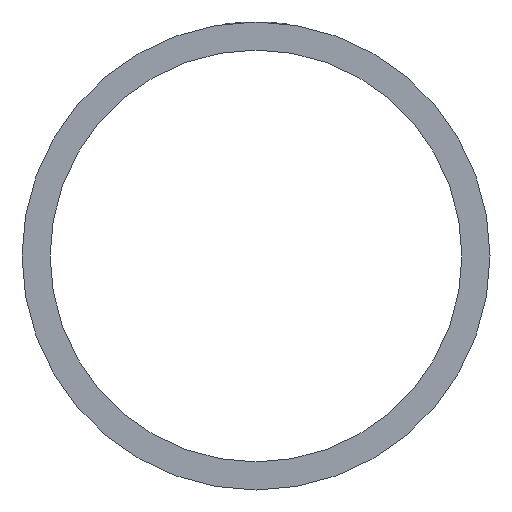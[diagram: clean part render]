
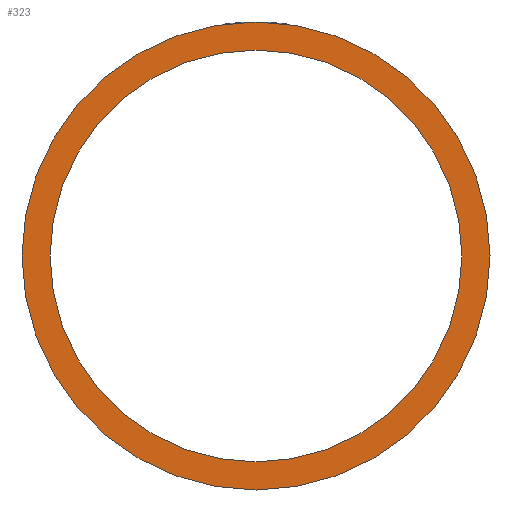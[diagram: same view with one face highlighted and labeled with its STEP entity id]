
A CAD part, front view. The second image highlights one B-rep face of the part: STEP entity #323.
In plain terms, the highlighted planar face has unit normal (0, -1, 0).
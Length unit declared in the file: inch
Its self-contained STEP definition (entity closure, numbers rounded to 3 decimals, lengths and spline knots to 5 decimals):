
#18 = FACE_OUTER_BOUND ( 'NONE', #477, .T. ) ;
#19 = CIRCLE ( 'NONE', #456, 1. ) ;
#20 = CIRCLE ( 'NONE', #437, 0.88 ) ;
#23 = FACE_BOUND ( 'NONE', #475, .T. ) ;
#27 = VERTEX_POINT ( 'NONE', #121 ) ;
#30 = VERTEX_POINT ( 'NONE', #119 ) ;
#37 = DIRECTION ( 'NONE',  ( 0., 1., 0. ) ) ;
#61 = CARTESIAN_POINT ( 'NONE',  ( 0., 0., 0. ) ) ;
#78 = DIRECTION ( 'NONE',  ( 1., 0., 0. ) ) ;
#119 = CARTESIAN_POINT ( 'NONE',  ( 0., 0., -1. ) ) ;
#121 = CARTESIAN_POINT ( 'NONE',  ( 0., 0., 0.88 ) ) ;
#131 = CARTESIAN_POINT ( 'NONE',  ( 0., 0., 0. ) ) ;
#139 = CARTESIAN_POINT ( 'NONE',  ( 0., 0., -0.88 ) ) ;
#142 = CARTESIAN_POINT ( 'NONE',  ( 0., 0., 1. ) ) ;
#150 = DIRECTION ( 'NONE',  ( 0., 0., 1. ) ) ;
#169 = PLANE ( 'NONE',  #443 ) ;
#170 = DIRECTION ( 'NONE',  ( 0., 1., 0. ) ) ;
#177 = CARTESIAN_POINT ( 'NONE',  ( 0., 0., 0. ) ) ;
#187 = DIRECTION ( 'NONE',  ( 0., 1., 0. ) ) ;
#196 = DIRECTION ( 'NONE',  ( 0., 0., 1. ) ) ;
#240 = DIRECTION ( 'NONE',  ( 1., 0., 0. ) ) ;
#242 = DIRECTION ( 'NONE',  ( 0., 0., 1. ) ) ;
#245 = CARTESIAN_POINT ( 'NONE',  ( 0., 0., 0. ) ) ;
#255 = DIRECTION ( 'NONE',  ( 0., 1., 0. ) ) ;
#261 = CARTESIAN_POINT ( 'NONE',  ( 0., 0., 0. ) ) ;
#263 = DIRECTION ( 'NONE',  ( 0., 1., 0. ) ) ;
#314 = VERTEX_POINT ( 'NONE', #139 ) ;
#317 = VERTEX_POINT ( 'NONE', #142 ) ;
#323 = ADVANCED_FACE ( 'NONE', ( #18, #23 ), #169, .F. ) ;
#360 = CIRCLE ( 'NONE', #448, 1. ) ;
#375 = CIRCLE ( 'NONE', #445, 0.88 ) ;
#392 = ORIENTED_EDGE ( 'NONE', *, *, #442, .F. ) ;
#398 = ORIENTED_EDGE ( 'NONE', *, *, #440, .T. ) ;
#399 = ORIENTED_EDGE ( 'NONE', *, *, #431, .F. ) ;
#400 = ORIENTED_EDGE ( 'NONE', *, *, #465, .T. ) ;
#431 = EDGE_CURVE ( 'NONE', #317, #30, #360, .T. ) ;
#437 = AXIS2_PLACEMENT_3D ( 'NONE', #245, #255, #240 ) ;
#440 = EDGE_CURVE ( 'NONE', #314, #27, #20, .T. ) ;
#442 = EDGE_CURVE ( 'NONE', #30, #317, #19, .T. ) ;
#443 = AXIS2_PLACEMENT_3D ( 'NONE', #131, #170, #150 ) ;
#445 = AXIS2_PLACEMENT_3D ( 'NONE', #61, #37, #78 ) ;
#448 = AXIS2_PLACEMENT_3D ( 'NONE', #177, #187, #196 ) ;
#456 = AXIS2_PLACEMENT_3D ( 'NONE', #261, #263, #242 ) ;
#465 = EDGE_CURVE ( 'NONE', #27, #314, #375, .T. ) ;
#475 = EDGE_LOOP ( 'NONE', ( #398, #400 ) ) ;
#477 = EDGE_LOOP ( 'NONE', ( #392, #399 ) ) ;
